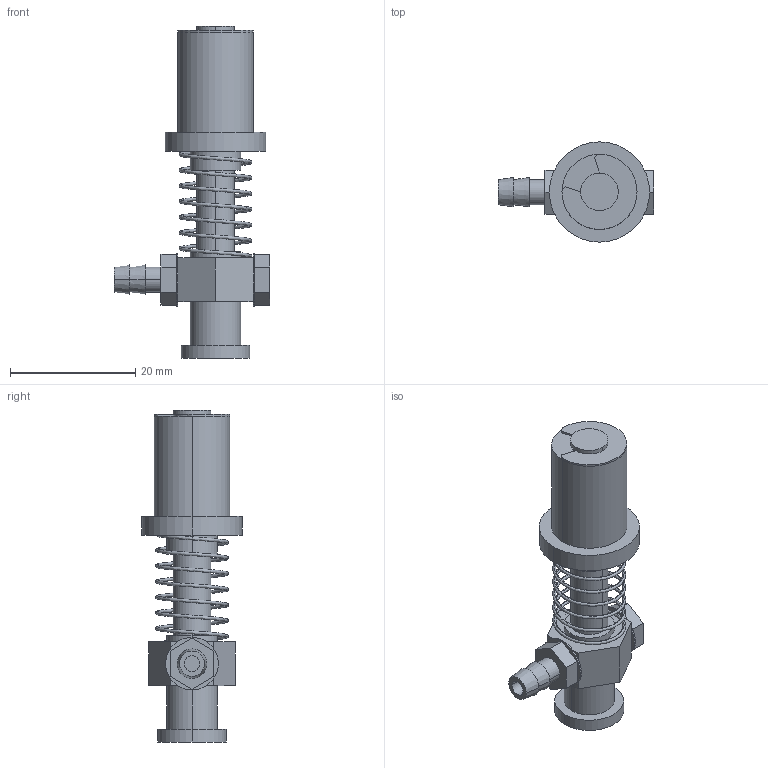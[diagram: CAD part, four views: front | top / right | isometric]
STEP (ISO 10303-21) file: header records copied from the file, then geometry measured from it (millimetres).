
FILE_DESCRIPTION (( 'STEP AP214' ), '1' );
FILE_NAME ('VFM-1012.STEP', '2019-11-16T01:58:09', ( '微软用户' ), ( '微软中国' ), 'SwSTEP 2.0', 'SolidWorks 2016', '' );
FILE_SCHEMA (( 'AUTOMOTIVE_DESIGN' ));
Length unit declared in the file: millimetre
Products named in the file (1): VFM-1012
Bounding box: 24.9 x 16 x 53 mm (x, y, z)
Volume: 4635.7 mm3; surface area: 4801.8 mm2
Topology: 9 solids, 9 shells, 140 faces, 329 edges, 217 vertices
Faces by surface type: cylinder 72, plane 56, cone 6, bspline 6
Entity records: 9452 total; most frequent: CARTESIAN_POINT 4664, ORIENTED_EDGE 654, DIRECTION 625, EDGE_CURVE 327, AXIS2_PLACEMENT_3D 237, VERTEX_POINT 217, EDGE_LOOP 164, VECTOR 151
